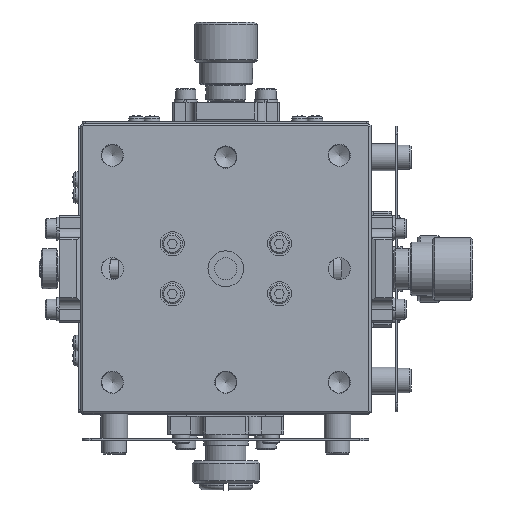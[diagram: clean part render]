
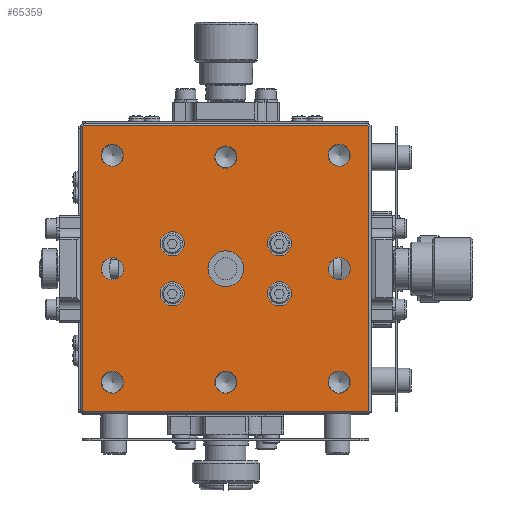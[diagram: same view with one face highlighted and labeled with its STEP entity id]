
A CAD part, top view. The second image highlights one B-rep face of the part: STEP entity #65359.
In plain terms, the highlighted planar face has unit normal (0, 0, 1).
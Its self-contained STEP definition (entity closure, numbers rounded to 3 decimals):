
#64811=CARTESIAN_POINT('',(-32.0,31.793,-50.0));
#64812=VERTEX_POINT('',#64811);
#64813=CARTESIAN_POINT('',(-31.793,32.0,-50.0));
#64814=VERTEX_POINT('',#64813);
#64815=CARTESIAN_POINT('',(-32.0,31.793,-50.0));
#64816=DIRECTION('',(0.707,0.707,0.0));
#64817=VECTOR('',#64816,0.293);
#64818=LINE('',#64815,#64817);
#64819=EDGE_CURVE('',#64812,#64814,#64818,.T.);
#64851=CARTESIAN_POINT('',(-32.0,-31.793,-50.0));
#64852=VERTEX_POINT('',#64851);
#64853=CARTESIAN_POINT('',(-32.0,-31.793,-50.0));
#64854=DIRECTION('',(0.0,1.0,0.0));
#64855=VECTOR('',#64854,63.586);
#64856=LINE('',#64853,#64855);
#64857=EDGE_CURVE('',#64852,#64812,#64856,.T.);
#64901=CARTESIAN_POINT('',(31.793,32.0,-50.0));
#64902=VERTEX_POINT('',#64901);
#64903=CARTESIAN_POINT('',(-31.793,32.0,-50.0));
#64904=DIRECTION('',(1.0,0.0,0.0));
#64905=VECTOR('',#64904,63.586);
#64906=LINE('',#64903,#64905);
#64907=EDGE_CURVE('',#64814,#64902,#64906,.T.);
#64923=CARTESIAN_POINT('',(31.793,-32.,-50.0));
#64924=VERTEX_POINT('',#64923);
#64925=CARTESIAN_POINT('',(-31.793,-32.0,-50.0));
#64926=VERTEX_POINT('',#64925);
#64927=CARTESIAN_POINT('',(31.793,-32.,-50.0));
#64928=DIRECTION('',(-1.0,0.0,0.0));
#64929=VECTOR('',#64928,63.586);
#64930=LINE('',#64927,#64929);
#64931=EDGE_CURVE('',#64924,#64926,#64930,.T.);
#64961=CARTESIAN_POINT('',(32.0,31.793,-50.0));
#64962=VERTEX_POINT('',#64961);
#64963=CARTESIAN_POINT('',(32.,-31.793,-50.0));
#64964=VERTEX_POINT('',#64963);
#64965=CARTESIAN_POINT('',(32.0,31.793,-50.0));
#64966=DIRECTION('',(0.0,-1.0,0.0));
#64967=VECTOR('',#64966,63.586);
#64968=LINE('',#64965,#64967);
#64969=EDGE_CURVE('',#64962,#64964,#64968,.T.);
#64994=CARTESIAN_POINT('',(32.,-31.793,-50.0));
#64995=DIRECTION('',(-0.707,-0.707,0.0));
#64996=VECTOR('',#64995,0.293);
#64997=LINE('',#64994,#64996);
#64998=EDGE_CURVE('',#64964,#64924,#64997,.T.);
#65016=CARTESIAN_POINT('',(31.793,32.0,-50.0));
#65017=DIRECTION('',(0.707,-0.707,0.0));
#65018=VECTOR('',#65017,0.293);
#65019=LINE('',#65016,#65018);
#65020=EDGE_CURVE('',#64902,#64962,#65019,.T.);
#65033=CARTESIAN_POINT('',(-31.793,-32.0,-50.0));
#65034=DIRECTION('',(-0.707,0.707,0.0));
#65035=VECTOR('',#65034,0.293);
#65036=LINE('',#65033,#65035);
#65037=EDGE_CURVE('',#64926,#64852,#65036,.T.);
#65201=CARTESIAN_POINT('',(32.5,-32.5,-50.0));
#65202=DIRECTION('',(0.0,0.0,-1.0));
#65203=DIRECTION('',(-1.0,0.0,0.0));
#65204=AXIS2_PLACEMENT_3D('',#65201,#65202,#65203);
#65205=PLANE('',#65204);
#65206=ORIENTED_EDGE('',*,*,#64969,.F.);
#65207=ORIENTED_EDGE('',*,*,#65020,.F.);
#65208=ORIENTED_EDGE('',*,*,#64907,.F.);
#65209=ORIENTED_EDGE('',*,*,#64819,.F.);
#65210=ORIENTED_EDGE('',*,*,#64857,.F.);
#65211=ORIENTED_EDGE('',*,*,#65037,.F.);
#65212=ORIENTED_EDGE('',*,*,#64931,.F.);
#65213=ORIENTED_EDGE('',*,*,#64998,.F.);
#65214=EDGE_LOOP('',(#65206,#65207,#65208,#65209,#65210,#65211,#65212,#65213));
#65215=FACE_OUTER_BOUND('',#65214,.T.);
#65216=CARTESIAN_POINT('',(-2.9,-12.,-50.0));
#65217=VERTEX_POINT('',#65216);
#65218=CARTESIAN_POINT('',(-5.6,-12.,-50.0));
#65219=DIRECTION('',(0.0,0.0,-1.0));
#65220=DIRECTION('',(1.0,0.0,0.0));
#65221=AXIS2_PLACEMENT_3D('',#65218,#65219,#65220);
#65222=CIRCLE('',#65221,2.7);
#65223=EDGE_CURVE('',#65217,#65217,#65222,.T.);
#65224=ORIENTED_EDGE('',*,*,#65223,.T.);
#65225=EDGE_LOOP('',(#65224));
#65226=FACE_BOUND('',#65225,.T.);
#65227=CARTESIAN_POINT('',(8.3,-12.,-50.0));
#65228=VERTEX_POINT('',#65227);
#65229=CARTESIAN_POINT('',(5.6,-12.,-50.0));
#65230=DIRECTION('',(0.0,0.0,-1.0));
#65231=DIRECTION('',(1.0,0.0,0.0));
#65232=AXIS2_PLACEMENT_3D('',#65229,#65230,#65231);
#65233=CIRCLE('',#65232,2.7);
#65234=EDGE_CURVE('',#65228,#65228,#65233,.T.);
#65235=ORIENTED_EDGE('',*,*,#65234,.T.);
#65236=EDGE_LOOP('',(#65235));
#65237=FACE_BOUND('',#65236,.T.);
#65238=CARTESIAN_POINT('',(-2.9,12.,-50.0));
#65239=VERTEX_POINT('',#65238);
#65240=CARTESIAN_POINT('',(-5.6,12.,-50.0));
#65241=DIRECTION('',(0.0,0.0,-1.0));
#65242=DIRECTION('',(1.0,0.0,0.0));
#65243=AXIS2_PLACEMENT_3D('',#65240,#65241,#65242);
#65244=CIRCLE('',#65243,2.7);
#65245=EDGE_CURVE('',#65239,#65239,#65244,.T.);
#65246=ORIENTED_EDGE('',*,*,#65245,.T.);
#65247=EDGE_LOOP('',(#65246));
#65248=FACE_BOUND('',#65247,.T.);
#65249=CARTESIAN_POINT('',(8.3,12.,-50.0));
#65250=VERTEX_POINT('',#65249);
#65251=CARTESIAN_POINT('',(5.6,12.,-50.0));
#65252=DIRECTION('',(0.0,0.0,-1.0));
#65253=DIRECTION('',(1.0,0.0,0.0));
#65254=AXIS2_PLACEMENT_3D('',#65251,#65252,#65253);
#65255=CIRCLE('',#65254,2.7);
#65256=EDGE_CURVE('',#65250,#65250,#65255,.T.);
#65257=ORIENTED_EDGE('',*,*,#65256,.T.);
#65258=EDGE_LOOP('',(#65257));
#65259=FACE_BOUND('',#65258,.T.);
#65260=CARTESIAN_POINT('',(-22.911,-25.4,-50.0));
#65261=VERTEX_POINT('',#65260);
#65262=CARTESIAN_POINT('',(-25.4,-25.4,-50.0));
#65263=DIRECTION('',(0.0,0.0,-1.0));
#65264=DIRECTION('',(1.0,0.0,0.0));
#65265=AXIS2_PLACEMENT_3D('',#65262,#65263,#65264);
#65266=CIRCLE('',#65265,2.489);
#65267=EDGE_CURVE('',#65261,#65261,#65266,.T.);
#65268=ORIENTED_EDGE('',*,*,#65267,.T.);
#65269=EDGE_LOOP('',(#65268));
#65270=FACE_BOUND('',#65269,.T.);
#65271=CARTESIAN_POINT('',(27.889,-25.4,-50.0));
#65272=VERTEX_POINT('',#65271);
#65273=CARTESIAN_POINT('',(25.4,-25.4,-50.0));
#65274=DIRECTION('',(0.0,0.0,-1.0));
#65275=DIRECTION('',(1.0,0.0,0.0));
#65276=AXIS2_PLACEMENT_3D('',#65273,#65274,#65275);
#65277=CIRCLE('',#65276,2.489);
#65278=EDGE_CURVE('',#65272,#65272,#65277,.T.);
#65279=ORIENTED_EDGE('',*,*,#65278,.T.);
#65280=EDGE_LOOP('',(#65279));
#65281=FACE_BOUND('',#65280,.T.);
#65282=CARTESIAN_POINT('',(-22.911,25.4,-50.0));
#65283=VERTEX_POINT('',#65282);
#65284=CARTESIAN_POINT('',(-25.4,25.4,-50.0));
#65285=DIRECTION('',(0.0,0.0,-1.0));
#65286=DIRECTION('',(1.0,0.0,0.0));
#65287=AXIS2_PLACEMENT_3D('',#65284,#65285,#65286);
#65288=CIRCLE('',#65287,2.489);
#65289=EDGE_CURVE('',#65283,#65283,#65288,.T.);
#65290=ORIENTED_EDGE('',*,*,#65289,.T.);
#65291=EDGE_LOOP('',(#65290));
#65292=FACE_BOUND('',#65291,.T.);
#65293=CARTESIAN_POINT('',(27.889,25.4,-50.0));
#65294=VERTEX_POINT('',#65293);
#65295=CARTESIAN_POINT('',(25.4,25.4,-50.0));
#65296=DIRECTION('',(0.0,0.0,-1.0));
#65297=DIRECTION('',(1.0,0.0,0.0));
#65298=AXIS2_PLACEMENT_3D('',#65295,#65296,#65297);
#65299=CIRCLE('',#65298,2.489);
#65300=EDGE_CURVE('',#65294,#65294,#65299,.T.);
#65301=ORIENTED_EDGE('',*,*,#65300,.T.);
#65302=EDGE_LOOP('',(#65301));
#65303=FACE_BOUND('',#65302,.T.);
#65304=CARTESIAN_POINT('',(-22.911,0.,-50.0));
#65305=VERTEX_POINT('',#65304);
#65306=CARTESIAN_POINT('',(-25.4,0.,-50.0));
#65307=DIRECTION('',(0.0,0.0,-1.0));
#65308=DIRECTION('',(1.0,0.0,0.0));
#65309=AXIS2_PLACEMENT_3D('',#65306,#65307,#65308);
#65310=CIRCLE('',#65309,2.489);
#65311=EDGE_CURVE('',#65305,#65305,#65310,.T.);
#65312=ORIENTED_EDGE('',*,*,#65311,.T.);
#65313=EDGE_LOOP('',(#65312));
#65314=FACE_BOUND('',#65313,.T.);
#65315=CARTESIAN_POINT('',(27.489,0.,-50.0));
#65316=VERTEX_POINT('',#65315);
#65317=CARTESIAN_POINT('',(25.,0.,-50.0));
#65318=DIRECTION('',(0.0,0.0,-1.0));
#65319=DIRECTION('',(1.0,0.0,0.0));
#65320=AXIS2_PLACEMENT_3D('',#65317,#65318,#65319);
#65321=CIRCLE('',#65320,2.489);
#65322=EDGE_CURVE('',#65316,#65316,#65321,.T.);
#65323=ORIENTED_EDGE('',*,*,#65322,.T.);
#65324=EDGE_LOOP('',(#65323));
#65325=FACE_BOUND('',#65324,.T.);
#65326=CARTESIAN_POINT('',(2.489,-25.4,-50.0));
#65327=VERTEX_POINT('',#65326);
#65328=CARTESIAN_POINT('',(0.0,-25.4,-50.0));
#65329=DIRECTION('',(0.0,0.0,-1.0));
#65330=DIRECTION('',(1.0,0.0,0.0));
#65331=AXIS2_PLACEMENT_3D('',#65328,#65329,#65330);
#65332=CIRCLE('',#65331,2.489);
#65333=EDGE_CURVE('',#65327,#65327,#65332,.T.);
#65334=ORIENTED_EDGE('',*,*,#65333,.T.);
#65335=EDGE_LOOP('',(#65334));
#65336=FACE_BOUND('',#65335,.T.);
#65337=CARTESIAN_POINT('',(2.489,25.4,-50.0));
#65338=VERTEX_POINT('',#65337);
#65339=CARTESIAN_POINT('',(0.0,25.4,-50.0));
#65340=DIRECTION('',(0.0,0.0,-1.0));
#65341=DIRECTION('',(1.0,0.0,0.0));
#65342=AXIS2_PLACEMENT_3D('',#65339,#65340,#65341);
#65343=CIRCLE('',#65342,2.489);
#65344=EDGE_CURVE('',#65338,#65338,#65343,.T.);
#65345=ORIENTED_EDGE('',*,*,#65344,.T.);
#65346=EDGE_LOOP('',(#65345));
#65347=FACE_BOUND('',#65346,.T.);
#65348=CARTESIAN_POINT('',(4.0,0.,-50.0));
#65349=VERTEX_POINT('',#65348);
#65350=CARTESIAN_POINT('',(0.0,0.,-50.0));
#65351=DIRECTION('',(0.0,0.0,-1.0));
#65352=DIRECTION('',(-1.0,0.0,0.0));
#65353=AXIS2_PLACEMENT_3D('',#65350,#65351,#65352);
#65354=CIRCLE('',#65353,4.0);
#65355=EDGE_CURVE('',#65349,#65349,#65354,.T.);
#65356=ORIENTED_EDGE('',*,*,#65355,.T.);
#65357=EDGE_LOOP('',(#65356));
#65358=FACE_BOUND('',#65357,.T.);
#65359=ADVANCED_FACE('',(#65215,#65226,#65237,#65248,#65259,#65270,#65281,#65292,#65303,#65314,#65325,#65336,#65347,#65358),#65205,.F.);
